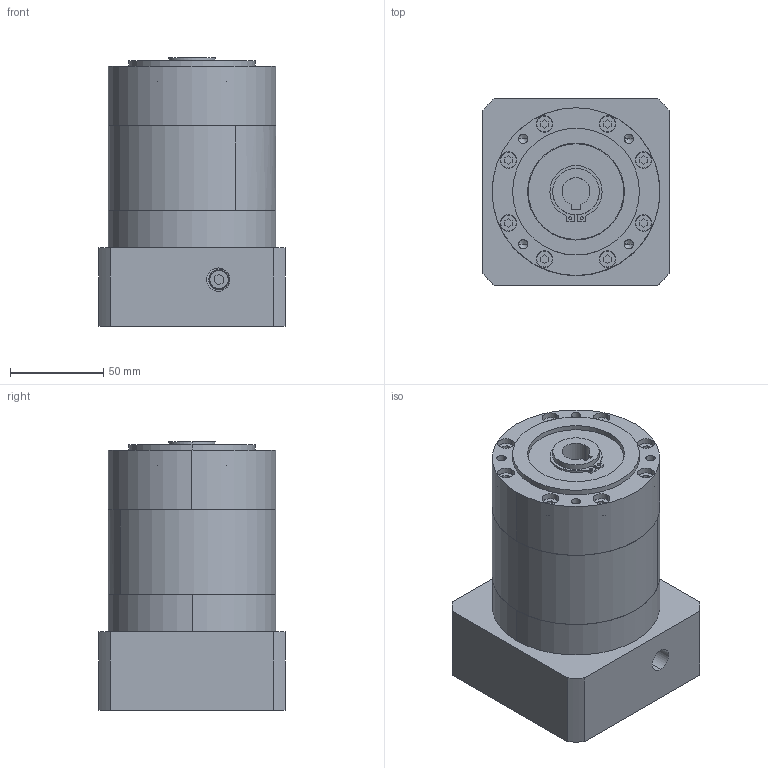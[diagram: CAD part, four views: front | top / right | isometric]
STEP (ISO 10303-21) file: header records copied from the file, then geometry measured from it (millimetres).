
FILE_DESCRIPTION (( 'STEP AP203' ), '1' );
FILE_NAME ('PBE90-L2-19-95-115.STEP', '2022-07-23T08:55:46', ( 'Windows User' ), ( 'P R C' ), 'SwSTEP 2.0', 'SolidWorks 2016', '' );
FILE_SCHEMA (( 'CONFIG_CONTROL_DESIGN' ));
Length unit declared in the file: millimetre
Products named in the file (7): PBE90 狟屳唳_D6-90 D7-19 梓袧; 囀鞠褒蹟佪 M6x20; 粣創-6007 35x62x14; PBE90 蟀諉啣-95-M8-115-100遺-LR57_D8-70 D9-90 D10-M5 A2-90 L4-32 L6-47(32+15) L7-6 R-59.5梓袧; PBE90 奻屳唳; PBE90-L2-19-95-115; PBE90 內齿圈-优化_二级内齿圈
Assembly tree (6 placements, depth 2):
  PBE90-L2-19-95-115
    PBE90 內齿圈-优化_二级内齿圈
    PBE90 狟屳唳_D6-90 D7-19 梓袧
    囀鞠褒蹟佪 M6x20
    粣創-6007 35x62x14
    PBE90 蟀諉啣-95-M8-115-100遺-LR57_D8-70 D9-90 D10-M5 A2-90 L4-32 L6-47(32+15) L7-6 R-59.5梓袧
    PBE90 奻屳唳
Bounding box: 100 x 100 x 144 mm (x, y, z)
Volume: 878041.4 mm3; surface area: 157138.2 mm2
Topology: 6 solids, 6 shells, 1092 faces, 2954 edges, 1951 vertices
Faces by surface type: plane 585, bspline 300, cylinder 189, cone 18
Entity records: 46162 total; most frequent: CARTESIAN_POINT 19763, ORIENTED_EDGE 5876, DIRECTION 4480, EDGE_CURVE 2938, VERTEX_POINT 1951, LINE 1512, VECTOR 1512, AXIS2_PLACEMENT_3D 1484
